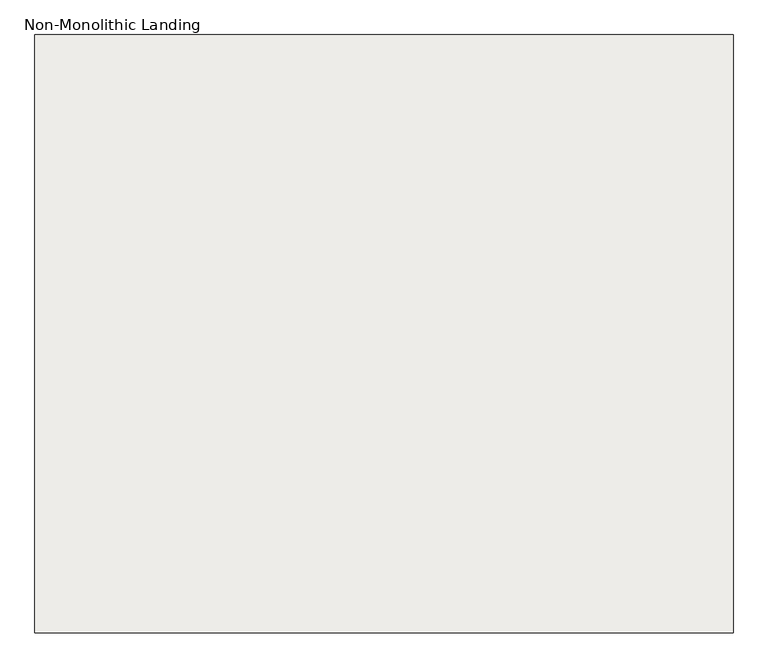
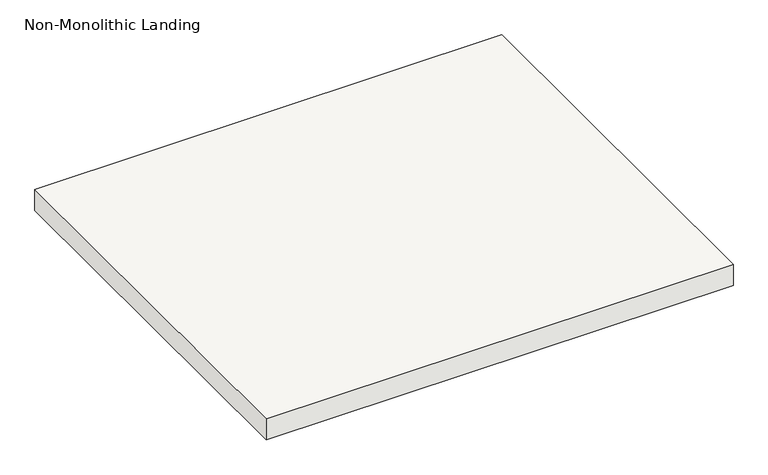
"""IFC4 building model written with IfcOpenShell, lengths in millimetres: slab geometry, Non-Monolithic Landing."""

from ifc_helpers import new_model, si_unit, frame, origin, place, context, project, spatial, polyline, outline, extrude, source, transform, mapped, element, save


def non_monolithic_landing_ffcbee33(model_context):
    return source(origin(), model_context, "Body", "SweptSolid", [
        extrude(outline(polyline([(113007.8944894, -34537.0428514), (114074.6944894, -34537.0428514), (114074.6944894, -35451.4428514), (113007.8944894, -35451.4428514), (113007.8944894, -34537.0428514)])), frame((0.0, 0.0, 2195.0947368), z_axis=(0.0, 0.0, 1.0), x_axis=(1.0, 0.0, 0.0)), (0.0, 0.0, 1.0), 50.8),
    ])


if __name__ == "__main__":
    model = new_model("IFC4")
    model_context = context("Model", 3, world=origin())
    ifc_project = project(units=[si_unit("LENGTHUNIT", "METRE", prefix="MILLI")], contexts=[model_context])
    site = spatial("IfcSite", under=ifc_project)
    building = spatial("IfcBuilding", under=site)
    placement = place(None, origin())
    non_monolithic_landing_shape = non_monolithic_landing_ffcbee33(model_context)
    element("IfcSlab", 1, ObjectType="Non-Monolithic Landing", at=placement, inside=building, context=model_context, shape_type="MappedRepresentation", body=[
        mapped(non_monolithic_landing_shape, transform((0.0, 0.0, 0.0), x_axis=(1.0, 0.0, 0.0), y_axis=(0.0, 1.0, 0.0), z_axis=(0.0, 0.0, 1.0))),
    ])
    save(model, "model.ifc")
